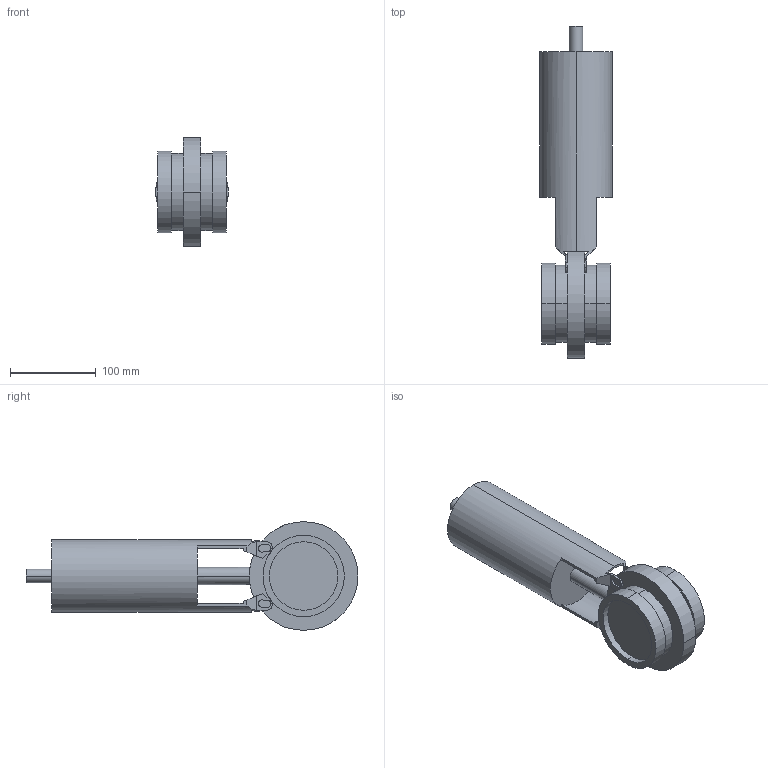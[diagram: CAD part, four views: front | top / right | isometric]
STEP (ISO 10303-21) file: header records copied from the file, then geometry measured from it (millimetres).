
FILE_DESCRIPTION(('Creo Elements/Direct Modeling STEP Export'),'2;1');
FILE_NAME('SV1-65-FZ-12G.stp','2012-03-20T14:23:53',(''),(''),'Creo Elements/Direct Modeling STEP processor for AP214 (Solid Model)','Creo Elements/Direct Modeling 17.0D 15-Jul-2011 (C) Parametric Technology GmbH','');
FILE_SCHEMA(('AUTOMOTIVE_DESIGN { 1 0 10303 214 1 1 1 1 }'));
Length unit declared in the file: millimetre
Products named in the file (1): SV1-65-FZ-12G
Bounding box: 85 x 387.93 x 127 mm (x, y, z)
Volume: 1587665.5 mm3; surface area: 135557.4 mm2
Topology: 1 solids, 1 shells, 109 faces, 295 edges, 192 vertices
Faces by surface type: plane 75, cylinder 34
Entity records: 3776 total; most frequent: CARTESIAN_POINT 1092, ORIENTED_EDGE 590, DIRECTION 525, EDGE_CURVE 295, VERTEX_POINT 192, VECTOR 179, LINE 179, AXIS2_PLACEMENT_3D 173
